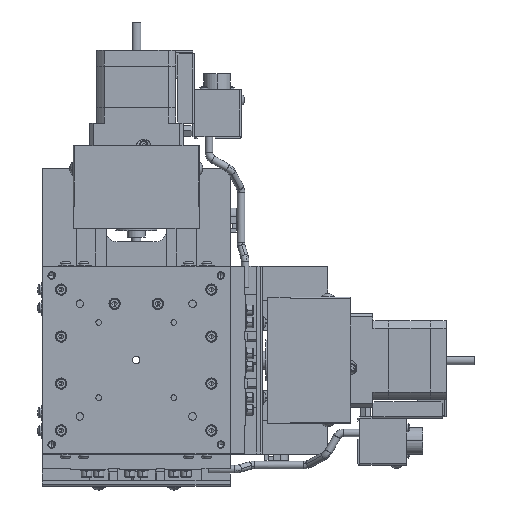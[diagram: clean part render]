
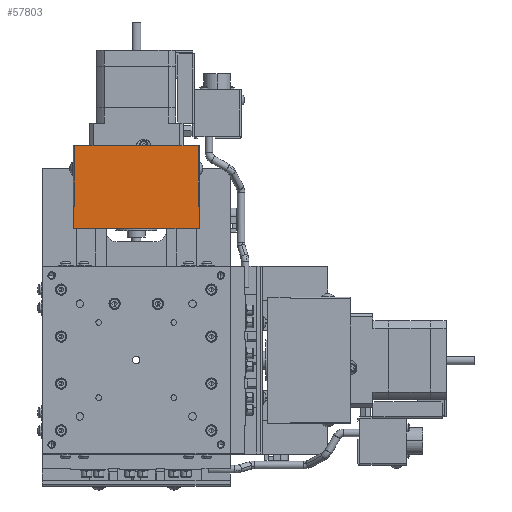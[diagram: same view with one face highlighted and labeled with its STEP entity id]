
A CAD part, top view. The second image highlights one B-rep face of the part: STEP entity #57803.
In plain terms, the highlighted planar face has unit normal (0, 0, 1).
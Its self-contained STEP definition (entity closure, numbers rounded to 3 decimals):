
#1400 = EDGE_CURVE ( 'NONE', #118409, #107896, #123968, .T. ) ;
#2793 = LINE ( 'NONE', #7780, #22381 ) ;
#2864 = LINE ( 'NONE', #56830, #105158 ) ;
#2878 = CARTESIAN_POINT ( 'NONE',  ( -179.002, 378.78, -81.876 ) ) ;
#2907 = CARTESIAN_POINT ( 'NONE',  ( -179.002, 370.78, -81.876 ) ) ;
#5437 = DIRECTION ( 'NONE',  ( 0., 1., 0. ) ) ;
#7780 = CARTESIAN_POINT ( 'NONE',  ( -179.002, 403.78, -81.876 ) ) ;
#7887 = CARTESIAN_POINT ( 'NONE',  ( -135.002, 370.28, -81.876 ) ) ;
#8804 = EDGE_CURVE ( 'NONE', #44110, #65125, #2864, .T. ) ;
#10112 = LINE ( 'NONE', #84786, #22183 ) ;
#10440 = VERTEX_POINT ( 'NONE', #33751 ) ;
#10782 = ORIENTED_EDGE ( 'NONE', *, *, #28526, .T. ) ;
#12933 = CARTESIAN_POINT ( 'NONE',  ( -135.002, 437.28, -81.876 ) ) ;
#13419 = LINE ( 'NONE', #116362, #61492 ) ;
#21220 = EDGE_CURVE ( 'NONE', #120017, #118409, #10112, .T. ) ;
#21784 = EDGE_CURVE ( 'NONE', #65125, #22338, #89712, .T. ) ;
#22183 = VECTOR ( 'NONE', #26045, 1000. ) ;
#22338 = VERTEX_POINT ( 'NONE', #86205 ) ;
#22381 = VECTOR ( 'NONE', #26757, 1000. ) ;
#24034 = CARTESIAN_POINT ( 'NONE',  ( -179.002, 403.78, -81.876 ) ) ;
#24745 = VERTEX_POINT ( 'NONE', #94924 ) ;
#25028 = ORIENTED_EDGE ( 'NONE', *, *, #1400, .T. ) ;
#25806 = EDGE_LOOP ( 'NONE', ( #62974, #80798, #84656, #25028, #71332, #96698, #59723, #56368, #124479, #55594, #58572, #10782 ) ) ;
#26045 = DIRECTION ( 'NONE',  ( 0., 1., 0. ) ) ;
#26757 = DIRECTION ( 'NONE',  ( 0., 1., 0. ) ) ;
#27754 = VERTEX_POINT ( 'NONE', #90021 ) ;
#28526 = EDGE_CURVE ( 'NONE', #118956, #27754, #13419, .T. ) ;
#33751 = CARTESIAN_POINT ( 'NONE',  ( -147.002, 370.28, -81.876 ) ) ;
#36792 = EDGE_CURVE ( 'NONE', #77941, #41655, #69191, .T. ) ;
#37946 = LINE ( 'NONE', #48159, #90568 ) ;
#40603 = VECTOR ( 'NONE', #95822, 1000. ) ;
#40721 = EDGE_CURVE ( 'NONE', #22338, #24745, #84283, .T. ) ;
#41655 = VERTEX_POINT ( 'NONE', #111634 ) ;
#44085 = DIRECTION ( 'NONE',  ( 0., 1., 0. ) ) ;
#44110 = VERTEX_POINT ( 'NONE', #2878 ) ;
#44421 = CARTESIAN_POINT ( 'NONE',  ( -147.002, 437.28, -81.876 ) ) ;
#44586 = DIRECTION ( 'NONE',  ( -1., 0., 0. ) ) ;
#47599 = DIRECTION ( 'NONE',  ( 0., 1., 0. ) ) ;
#47707 = CARTESIAN_POINT ( 'NONE',  ( -179.002, 403.78, -81.876 ) ) ;
#47965 = DIRECTION ( 'NONE',  ( 0., 1., 0. ) ) ;
#48159 = CARTESIAN_POINT ( 'NONE',  ( -147.002, 370.28, -81.876 ) ) ;
#50320 = CARTESIAN_POINT ( 'NONE',  ( -135.002, 370.28, -81.876 ) ) ;
#53350 = CARTESIAN_POINT ( 'NONE',  ( -179.002, 403.78, -81.876 ) ) ;
#53731 = FACE_OUTER_BOUND ( 'NONE', #25806, .T. ) ;
#55594 = ORIENTED_EDGE ( 'NONE', *, *, #8804, .F. ) ;
#55919 = DIRECTION ( 'NONE',  ( 0., 0., 1. ) ) ;
#56299 = VECTOR ( 'NONE', #59659, 1000. ) ;
#56368 = ORIENTED_EDGE ( 'NONE', *, *, #40721, .F. ) ;
#56830 = CARTESIAN_POINT ( 'NONE',  ( -179.002, 403.78, -81.876 ) ) ;
#56856 = EDGE_CURVE ( 'NONE', #118956, #44110, #2793, .T. ) ;
#57323 = CARTESIAN_POINT ( 'NONE',  ( -179.002, 403.812, -81.876 ) ) ;
#57803 = ADVANCED_FACE ( 'NONE', ( #53731 ), #84072, .T. ) ;
#58423 = CARTESIAN_POINT ( 'NONE',  ( -135.002, 437.28, -81.876 ) ) ;
#58572 = ORIENTED_EDGE ( 'NONE', *, *, #56856, .F. ) ;
#59291 = VECTOR ( 'NONE', #47965, 1000. ) ;
#59659 = DIRECTION ( 'NONE',  ( -1., 0., 0. ) ) ;
#59723 = ORIENTED_EDGE ( 'NONE', *, *, #116344, .F. ) ;
#59735 = VECTOR ( 'NONE', #44085, 1000. ) ;
#61492 = VECTOR ( 'NONE', #88606, 1000. ) ;
#62974 = ORIENTED_EDGE ( 'NONE', *, *, #90048, .F. ) ;
#64099 = VECTOR ( 'NONE', #114952, 1000. ) ;
#65125 = VERTEX_POINT ( 'NONE', #57323 ) ;
#66351 = CARTESIAN_POINT ( 'NONE',  ( -163.002, 436.78, -81.876 ) ) ;
#67853 = AXIS2_PLACEMENT_3D ( 'NONE', #113501, #55919, #44586 ) ;
#67912 = EDGE_CURVE ( 'NONE', #120017, #10440, #110760, .T. ) ;
#69191 = LINE ( 'NONE', #66351, #40603 ) ;
#70576 = CARTESIAN_POINT ( 'NONE',  ( -147.002, 436.78, -81.876 ) ) ;
#71332 = ORIENTED_EDGE ( 'NONE', *, *, #89278, .F. ) ;
#75711 = CARTESIAN_POINT ( 'NONE',  ( -147.002, 370.28, -81.876 ) ) ;
#77941 = VERTEX_POINT ( 'NONE', #70576 ) ;
#80798 = ORIENTED_EDGE ( 'NONE', *, *, #67912, .F. ) ;
#84072 = PLANE ( 'NONE',  #67853 ) ;
#84283 = LINE ( 'NONE', #24034, #112892 ) ;
#84656 = ORIENTED_EDGE ( 'NONE', *, *, #21220, .T. ) ;
#84786 = CARTESIAN_POINT ( 'NONE',  ( -135.002, 370.28, -81.876 ) ) ;
#86205 = CARTESIAN_POINT ( 'NONE',  ( -179.002, 411.749, -81.876 ) ) ;
#86803 = DIRECTION ( 'NONE',  ( 0., 1., 0. ) ) ;
#88606 = DIRECTION ( 'NONE',  ( 1., 0., 0. ) ) ;
#89278 = EDGE_CURVE ( 'NONE', #77941, #107896, #108924, .T. ) ;
#89712 = LINE ( 'NONE', #47707, #64099 ) ;
#90021 = CARTESIAN_POINT ( 'NONE',  ( -147.002, 370.78, -81.876 ) ) ;
#90048 = EDGE_CURVE ( 'NONE', #10440, #27754, #37946, .T. ) ;
#90568 = VECTOR ( 'NONE', #86803, 1000. ) ;
#94924 = CARTESIAN_POINT ( 'NONE',  ( -179.002, 428.78, -81.876 ) ) ;
#95822 = DIRECTION ( 'NONE',  ( -1., 0., 0. ) ) ;
#96698 = ORIENTED_EDGE ( 'NONE', *, *, #36792, .T. ) ;
#104560 = DIRECTION ( 'NONE',  ( -1., 0., 0. ) ) ;
#105158 = VECTOR ( 'NONE', #47599, 1000. ) ;
#106166 = VECTOR ( 'NONE', #104560, 1000. ) ;
#107896 = VERTEX_POINT ( 'NONE', #44421 ) ;
#108924 = LINE ( 'NONE', #75711, #59291 ) ;
#110760 = LINE ( 'NONE', #7887, #106166 ) ;
#111634 = CARTESIAN_POINT ( 'NONE',  ( -179.002, 436.78, -81.876 ) ) ;
#112892 = VECTOR ( 'NONE', #5437, 1000. ) ;
#113501 = CARTESIAN_POINT ( 'NONE',  ( -135.002, 370.28, -81.876 ) ) ;
#114952 = DIRECTION ( 'NONE',  ( 0., 1., 0. ) ) ;
#116344 = EDGE_CURVE ( 'NONE', #24745, #41655, #116936, .T. ) ;
#116362 = CARTESIAN_POINT ( 'NONE',  ( -163.002, 370.78, -81.876 ) ) ;
#116936 = LINE ( 'NONE', #53350, #59735 ) ;
#118409 = VERTEX_POINT ( 'NONE', #12933 ) ;
#118956 = VERTEX_POINT ( 'NONE', #2907 ) ;
#120017 = VERTEX_POINT ( 'NONE', #50320 ) ;
#123968 = LINE ( 'NONE', #58423, #56299 ) ;
#124479 = ORIENTED_EDGE ( 'NONE', *, *, #21784, .F. ) ;
